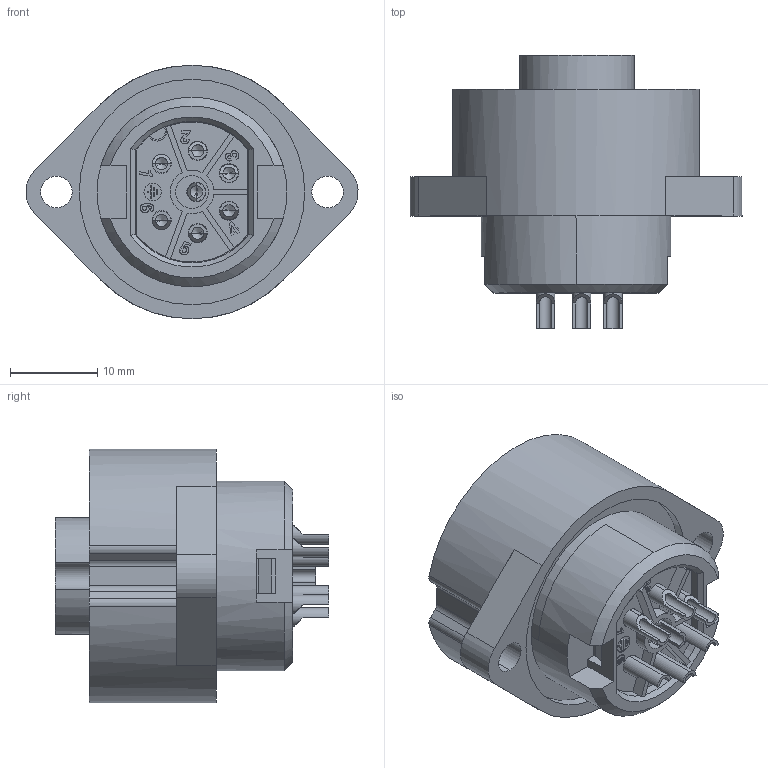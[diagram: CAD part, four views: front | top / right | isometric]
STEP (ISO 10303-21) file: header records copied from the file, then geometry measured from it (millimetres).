
FILE_DESCRIPTION((''),'2;1');
FILE_NAME('PRT0007','2016-12-14T',('Administrator'),(''),'PRO/ENGINEER BY PARAMETRIC TECHNOLOGY CORPORATION, 2015240','PRO/ENGINEER BY PARAMETRIC TECHNOLOGY CORPORATION, 2015240','');
FILE_SCHEMA(('CONFIG_CONTROL_DESIGN'));
Length unit declared in the file: millimetre
Products named in the file (1): PRT0007
Bounding box: 37.97 x 31.3 x 29 mm (x, y, z)
Volume: 9771.4 mm3; surface area: 9806.1 mm2
Topology: 1 solids, 2 shells, 895 faces, 2524 edges, 1614 vertices
Faces by surface type: plane 444, cylinder 194, extrusion 190, cone 62, bspline 5
Entity records: 30874 total; most frequent: CARTESIAN_POINT 8113, ORIENTED_EDGE 4992, DIRECTION 4252, EDGE_CURVE 2496, VERTEX_POINT 1614, VECTOR 1598, LINE 1408, AXIS2_PLACEMENT_3D 1327
